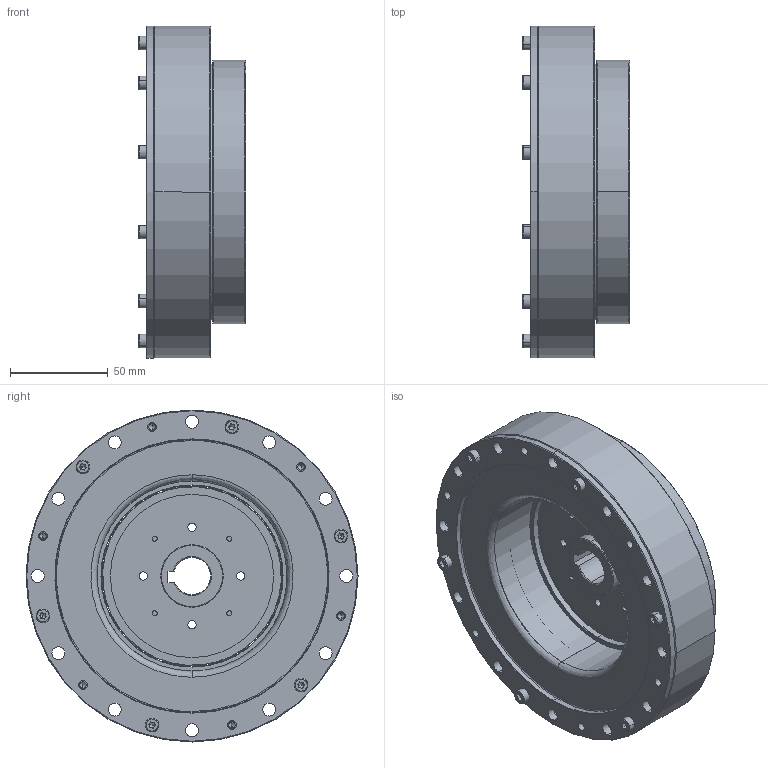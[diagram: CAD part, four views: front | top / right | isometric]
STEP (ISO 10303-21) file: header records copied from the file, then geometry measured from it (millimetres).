
FILE_DESCRIPTION (( 'STEP AP203' ), '1' );
FILE_NAME ('LHSG-40-XXX-C-I-S0.step', '2025-01-07T07:26:48', ( '' ), ( '' ), 'SwSTEP 2.0', 'SolidWorks 2023', '' );
FILE_SCHEMA (( 'CONFIG_CONTROL_DESIGN' ));
Length unit declared in the file: metre
Products named in the file (1): LHSG-40-XXX-C-I-S0
Bounding box: 55 x 170 x 170 mm (x, y, z)
Volume: 585275.1 mm3; surface area: 271585.3 mm2
Topology: 47 solids, 47 shells, 1125 faces, 2729 edges, 1596 vertices
Faces by surface type: cylinder 426, plane 333, cone 228, bspline 138
Entity records: 36461 total; most frequent: CARTESIAN_POINT 10559, DIRECTION 5743, ORIENTED_EDGE 5090, EDGE_CURVE 2545, AXIS2_PLACEMENT_3D 2342, VERTEX_POINT 1596, EDGE_LOOP 1379, CIRCLE 1354
